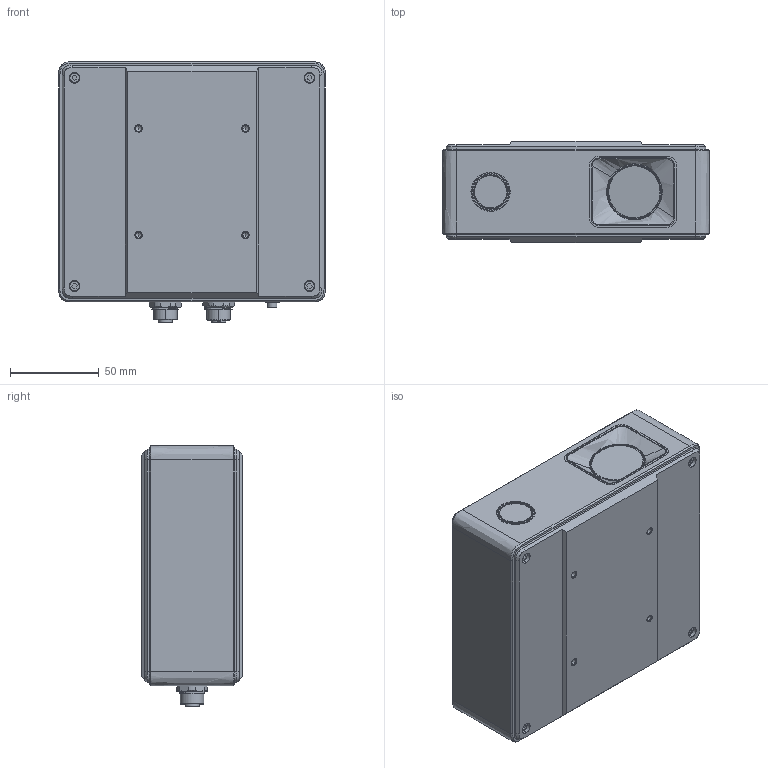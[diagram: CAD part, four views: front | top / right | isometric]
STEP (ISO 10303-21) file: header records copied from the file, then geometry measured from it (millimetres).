
FILE_DESCRIPTION(/* description */ (''),/* implementation_level */ '2;1');
FILE_NAME(/* name */ 'RVC-I2370',/* time_stamp */ '2024-01-17T16:21:47+08:00',/* author */ (''),/* organization */ (''),/* preprocessor_version */ 'ST-DEVELOPER v16.5',/* originating_system */ 'Rhino 7.25',/* authorisation */ '');
FILE_SCHEMA (('CONFIG_CONTROL_DESIGN'));
Length unit declared in the file: millimetre
Products named in the file (1): Document
Bounding box: 150 x 57 x 146.6 mm (x, y, z)
Volume: 1095479.7 mm3; surface area: 75054.4 mm2
Topology: 7 solids, 7 shells, 765 faces, 1877 edges, 1201 vertices
Faces by surface type: plane 374, cylinder 205, bspline 186
Entity records: 35408 total; most frequent: CARTESIAN_POINT 21347, ORIENTED_EDGE 3730, EDGE_CURVE 1865, B_SPLINE_CURVE_WITH_KNOTS 1273, VERTEX_POINT 1200, EDGE_LOOP 859, ADVANCED_FACE 765, FACE_OUTER_BOUND 765
